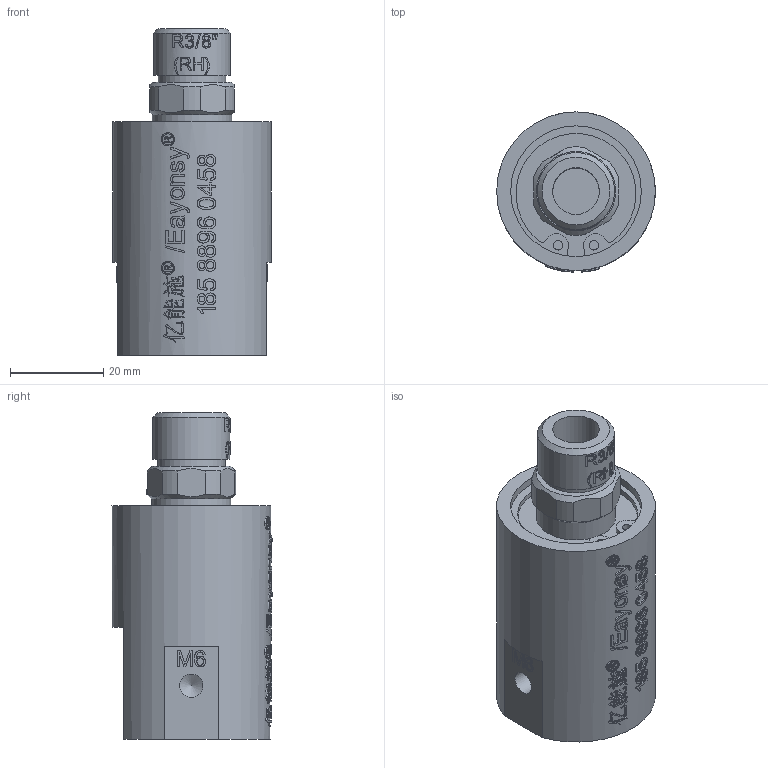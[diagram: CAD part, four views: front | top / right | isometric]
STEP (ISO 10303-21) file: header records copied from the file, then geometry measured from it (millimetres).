
FILE_DESCRIPTION(/* description */ (''),/* implementation_level */ '2;1');
FILE_NAME(/* name */ 'YC0103(RH)-3D模型.stp',/* time_stamp */ '2025-07-07T09:33:18+08:00',/* author */ (''),/* organization */ (''),/* preprocessor_version */ 'ST-DEVELOPER v16.7',/* originating_system */ 'SIEMENS PLM Software NX 12.0',/* authorisation */ '');
FILE_SCHEMA (('AUTOMOTIVE_DESIGN { 1 0 10303 214 3 1 1 1 }'));
Products named in the file (1): Admi1AA49A9B08ne
Bounding box: 34 x 34.29 x 70 mm (x, y, z)
Volume: 40794.6 mm3; surface area: 11700.3 mm2
Topology: 1 solids, 1 shells, 1231 faces, 3422 edges, 2282 vertices
Faces by surface type: extrusion 775, plane 348, bspline 53, cylinder 50, cone 5
Full cylindrical faces by diameter (mm): 2 x2, 5 x2, 10 x2, 14.5 x1, 15 x1, 16.5 x1, 17 x1, 28 x1, 29.5 x1, 34 x1
Entity records: 51295 total; most frequent: CARTESIAN_POINT 25393, ORIENTED_EDGE 6780, B_SPLINE_CURVE_WITH_KNOTS 3611, EDGE_CURVE 3390, DIRECTION 2379, VERTEX_POINT 2271, EDGE_LOOP 1341, ADVANCED_FACE 1231
